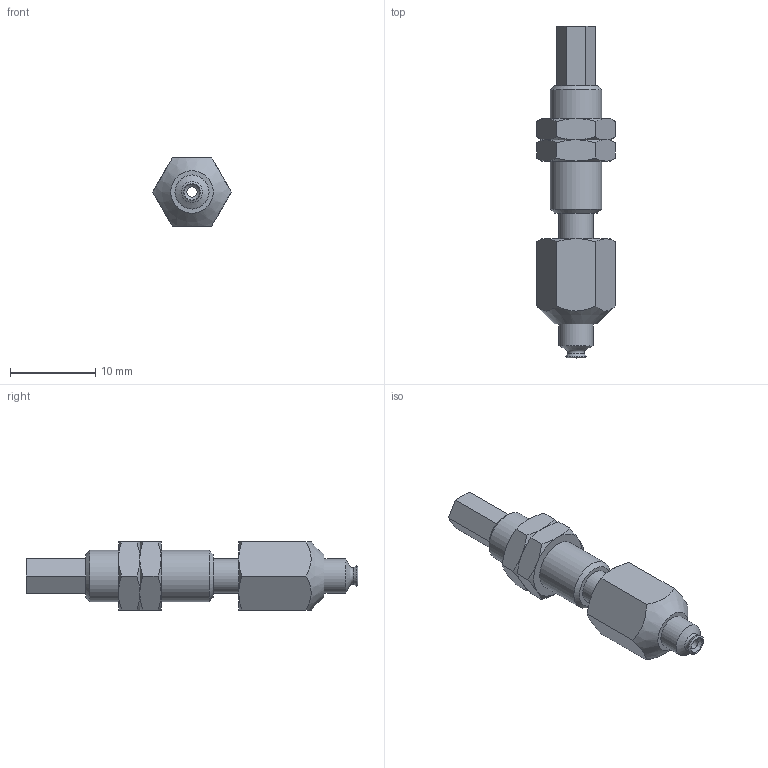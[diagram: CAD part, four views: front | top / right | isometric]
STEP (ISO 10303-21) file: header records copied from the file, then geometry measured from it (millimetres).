
FILE_DESCRIPTION(('STEP AP203'),'1');
FILE_NAME('.stp','2025-08-27T05:24:08',(' '),(' '),'Spatial InterOp 3D',' ',' ');
FILE_SCHEMA(('CONFIG_CONTROL_DESIGN'));
Length unit declared in the file: millimetre
Products named in the file (6): BNABPFTS-2A-3-※; ADAPTER; NAPFTS-2A-3-MBODY; Nut-2A-3-s; NAPFTS-2A-3-FBODY; BPFG-2A-※
Assembly tree (6 placements, depth 2):
  BNABPFTS-2A-3-※
    ADAPTER
    NAPFTS-2A-3-MBODY
    Nut-2A-3-s  x2
    NAPFTS-2A-3-FBODY
    BPFG-2A-※
Bounding box: 9.24 x 39 x 8 mm (x, y, z)
Volume: 1222.4 mm3; surface area: 1793.4 mm2
Topology: 6 solids, 6 shells, 110 faces, 231 edges, 137 vertices
Faces by surface type: plane 46, cone 42, cylinder 14, torus 7, bspline 1
Full cylindrical faces by diameter (mm): 1.2 x3, 2 x2, 2.459 x1, 3 x2, 4 x3, 5.188 x2, 6 x1
Entity records: 2599 total; most frequent: CARTESIAN_POINT 631, DIRECTION 354, ORIENTED_EDGE 288, AXIS2_PLACEMENT_3D 159, EDGE_CURVE 144, EDGE_LOOP 132, FACE_OUTER_BOUND 108, VERTEX_POINT 102
